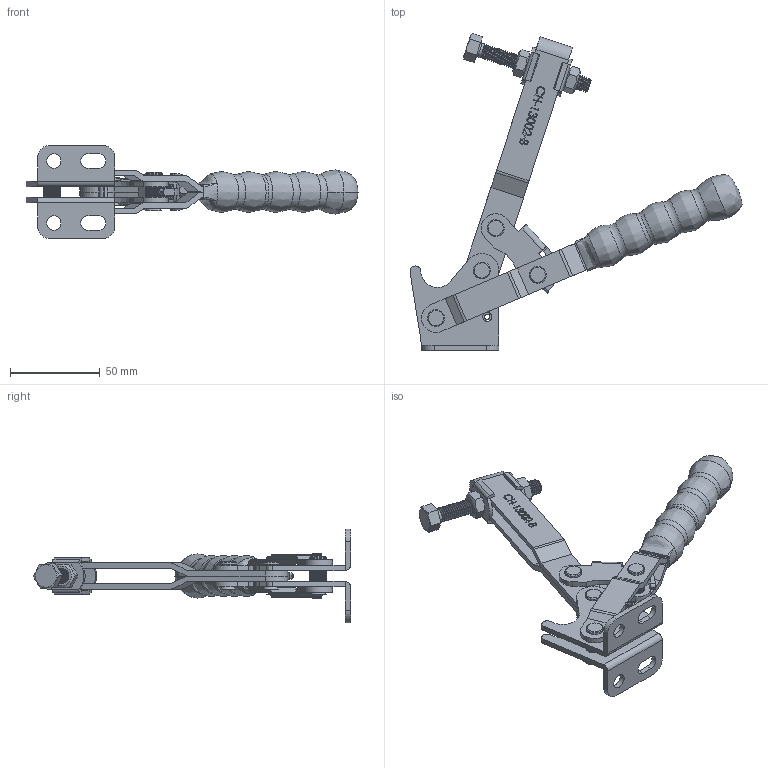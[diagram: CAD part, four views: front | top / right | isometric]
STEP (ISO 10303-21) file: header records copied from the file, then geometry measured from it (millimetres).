
FILE_DESCRIPTION(/* description */ ('STEP AP203'),/* implementation_level */ '2;1');
FILE_NAME(/* name */ 'D:\Vault_2016\Projekty\Clamptek\STRONA\Vertical toggle clamp\CH-13002-B\CH-13002-B_OTWARTY.stp',/* time_stamp */ '2019-01-16T16:37:01+01:00',/* author */ ('Łukasz'),/* organization */ ('Î¢ÈíÖÐ¹ú'),/* preprocessor_version */ 'ST-DEVELOPER v17.2',/* originating_system */ 'Autodesk Inventor 2019',/* authorisation */ '');
FILE_SCHEMA (('AUTOMOTIVE_DESIGN { 1 0 10303 214 3 1 1 }'));
Products named in the file (14): CH-13002-B; CH-13002-B-10; CH-13002-B-03 HANDLE; CH-13002-B-06; CH-SA-086512 SPINDLE SUPPLIED; CH-13002-B-09; CH-13002-B-02 U-BAR; CH-13002-B-07; CH-13002-B-08; CH-FW-516; CH-13002-B-04 CONNECTING-PLATE; CH-13002-B-01 FLANGED BASE; M8 Nut; CH-13002-B-05
Assembly tree (19 placements, depth 2):
  CH-13002-B
    CH-13002-B-05  x2
    CH-13002-B-10
    M8 Nut  x2
    CH-FW-516  x2
    CH-13002-B-03 HANDLE
    CH-13002-B-09  x2
    CH-13002-B-06  x2
    CH-SA-086512 SPINDLE SUPPLIED
    CH-13002-B-08  x2
    CH-13002-B-02 U-BAR
    CH-13002-B-07
    CH-13002-B-04 CONNECTING-PLATE
    CH-13002-B-01 FLANGED BASE
Bounding box: 184.65 x 176.35 x 52 mm (x, y, z)
Volume: 89498.2 mm3; surface area: 66086.7 mm2
Topology: 22 solids, 22 shells, 2600 faces, 6387 edges, 3861 vertices
Faces by surface type: plane 1567, cylinder 783, bspline 208, cone 36, torus 6
Full cylindrical faces by diameter (mm): 2.095 x1, 2.384 x1, 5 x2, 6.4 x16, 6.5 x8, 8 x51, 8.1 x2, 9.4 x4, 9.5 x8
Entity records: 83394 total; most frequent: CARTESIAN_POINT 45087, ORIENTED_EDGE 8094, DIRECTION 7609, EDGE_CURVE 4047, AXIS2_PLACEMENT_3D 2674, VERTEX_POINT 2507, LINE 2261, VECTOR 2261
